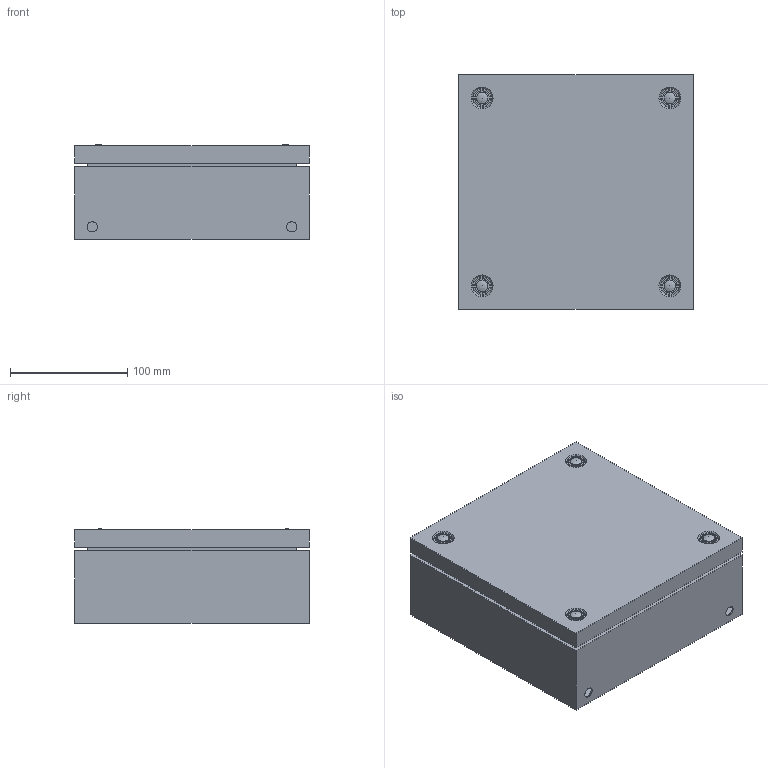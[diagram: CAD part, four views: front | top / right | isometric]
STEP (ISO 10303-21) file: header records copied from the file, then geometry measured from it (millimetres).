
FILE_DESCRIPTION( ( 'STEP AP214' ), '1' );
FILE_NAME( 'p:/temp/worker_207/temp/exporttempdir_3824_468_ZBdoV/format_0/STB202008(0).stp', '2021-03-16T12:18:15', ( 'License CC BY-ND 4.0' ), ( 'CADENAS' ), ' ', 'PARTsolutions', ' ' );
FILE_SCHEMA( ( 'AUTOMOTIVE_DESIGN { 1 0 10303 214 1 1 1 1 }' ) );
Length unit declared in the file: millimetre
Products named in the file (4): STB202008(0); _STB202008(0)_01; _STB2020XX(0)_02; _STBXXXXXX(0)_03
Assembly tree (6 placements, depth 2):
  STB202008(0)
    _STB202008(0)_01
    _STB2020XX(0)_02
    _STBXXXXXX(0)_03  x4
Bounding box: 200 x 200 x 80.9 mm (x, y, z)
Volume: 223045.6 mm3; surface area: 329993.2 mm2
Topology: 6 solids, 6 shells, 251 faces, 569 edges, 369 vertices
Faces by surface type: plane 147, cylinder 62, cone 38, sphere 4
Full cylindrical faces by diameter (mm): 3.2 x4, 3.5 x4, 6 x4, 7 x4, 7.5 x4, 8 x2, 8.5 x4, 8.7 x6, 10 x4, 14 x2
Entity records: 7390 total; most frequent: DIRECTION 986, CARTESIAN_POINT 975, ORIENTED_EDGE 860, EDGE_CURVE 430, AXIS2_PLACEMENT_3D 351, EDGE_LOOP 310, VERTEX_POINT 308, LINE 284
